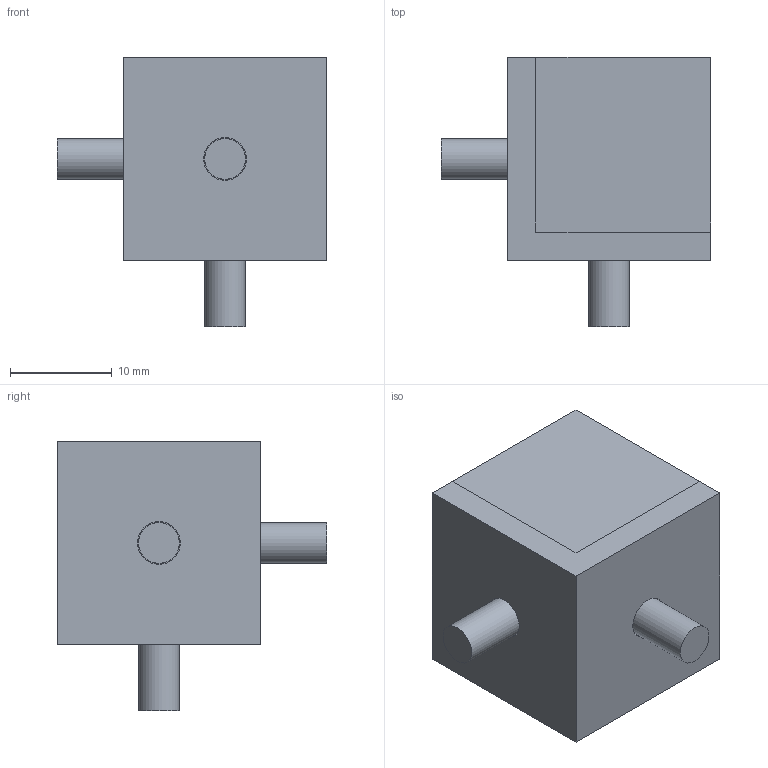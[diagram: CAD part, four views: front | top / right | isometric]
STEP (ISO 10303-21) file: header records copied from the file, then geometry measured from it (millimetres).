
FILE_DESCRIPTION((''),'2;1');
FILE_NAME('C:\Documents and Settings\古川典政\My Documents\Inventor\HP用\MasterData\BRACKET\M4\ABC-2020-4_typeA.stp','2008-07-30T13:45:24',('ÐT'),(''),'Autodesk Inventor 2008','Autodesk Inventor 2008','');
FILE_SCHEMA(('AUTOMOTIVE_DESIGN { 1 0 10303 214 1 1 1 1 }'));
Length unit declared in the file: millimetre
Products named in the file (6): ABC-2020-4_typeA; ABC-2020-4_typeA1; ABC-2020-4_typeA2; ABC-2020-4_typeA3; ABC-2020-4_typeA4; ABC-2020-4_typeA5
Assembly tree (5 placements, depth 2):
  ABC-2020-4_typeA
    ABC-2020-4_typeA1
    ABC-2020-4_typeA2
    ABC-2020-4_typeA3
    ABC-2020-4_typeA4
    ABC-2020-4_typeA5
Bounding box: 26.5 x 26.5 x 26.5 mm (x, y, z)
Volume: 4143.3 mm3; surface area: 5070.2 mm2
Topology: 5 solids, 5 shells, 42 faces, 78 edges, 52 vertices
Faces by surface type: plane 27, bspline 9, cylinder 6
Full cylindrical faces by diameter (mm): 4 x3, 7 x3
Entity records: 1248 total; most frequent: CARTESIAN_POINT 282, DIRECTION 178, ORIENTED_EDGE 132, AXIS2_PLACEMENT_3D 68, EDGE_CURVE 66, EDGE_LOOP 66, VERTEX_POINT 52, FACE_OUTER_BOUND 42
